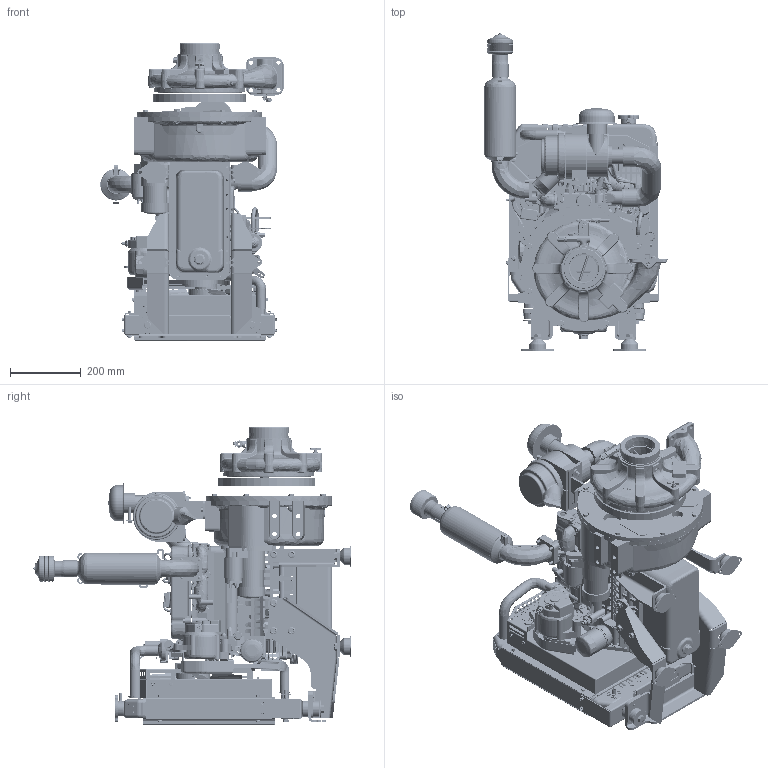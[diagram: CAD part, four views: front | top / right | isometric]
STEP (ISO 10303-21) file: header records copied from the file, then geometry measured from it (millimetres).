
FILE_DESCRIPTION (( 'STEP AP214' ), '1' );
FILE_NAME ('HPX200-KBD24 PUMP ASSEMBLY.STEP', '2017-10-25T19:46:11', ( '' ), ( '' ), 'SwSTEP 2.0', 'SolidWorks 2016', '' );
FILE_SCHEMA (( 'AUTOMOTIVE_DESIGN' ));
Length unit declared in the file: millimetre
Products named in the file (1): HPX200-KBD24 PUMP ASSEMBLY
Bounding box: 519.88 x 899.76 x 842.34 mm (x, y, z)
Surface area: 5170700.4 mm2 (no closed solid volume)
Topology: 0 solids, 522 shells, 8719 faces, 34228 edges, 25050 vertices
Faces by surface type: plane 3597, cylinder 2619, bspline 1699, cone 541, torus 247, sphere 16
Entity records: 652980 total; most frequent: CARTESIAN_POINT 299264, ORIENTED_EDGE 51665, DIRECTION 45784, EDGE_CURVE 34120, VERTEX_POINT 25050, AXIS2_PLACEMENT_3D 15578, LINE 14628, VECTOR 14628
